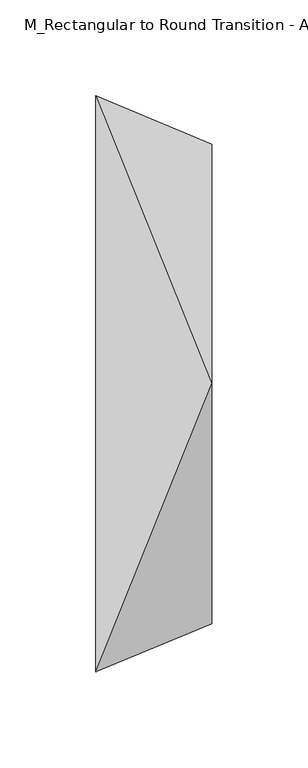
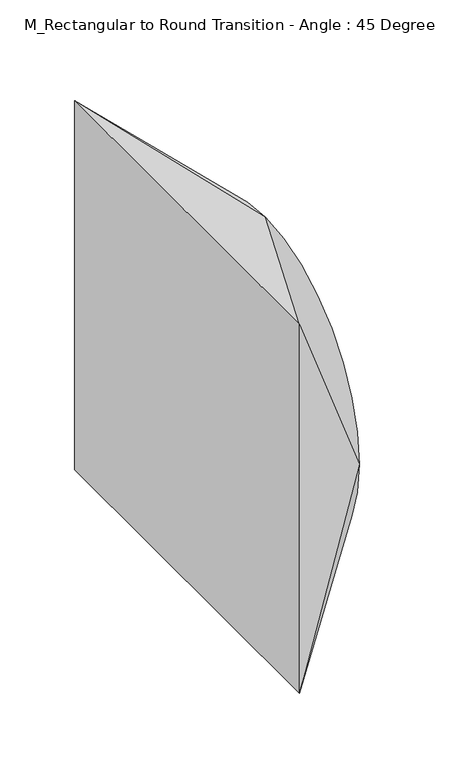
"""IFC4 building model written with IfcOpenShell, lengths in millimetres: duct fitting geometry, M_Rectangular to Round Transition - Angle : 45 Degree."""

from ifc_helpers import new_model, si_unit, frame, origin, place, context, project, spatial, circle_curve, source, transform, mapped, element, save
from ifc_brep_helpers import plane_surface, spline_surface, advanced_brep


def m_rectangular_to_round_transition_angle_45_degree_5bab159d(model_context):
    return source(origin(), model_context, "Body", "AdvancedBrep", [
        advanced_brep(
        [(0.0, -150.0, -150.0), (0.0, -150.0, 150.0), (0.0, 150.0, 150.0), (0.0, 150.0, -150.0), (60.3553391, -125.0, 0.0), (60.3553391, 0.0, -125.0), (60.3553391, 125.0, 0.0), (60.3553391, 0.0, 125.0)],
        [
            (0, 1),
            (1, 2),
            (2, 3),
            (3, 0),
            (4, 5, circle_curve(frame((60.3553391, 0.0, 0.0), z_axis=(1.0, 0.0, 0.0), x_axis=(0.0, -1.0, 0.0)), 125.0)),
            (5, 6, circle_curve(frame((60.3553391, 0.0, 0.0), z_axis=(1.0, 0.0, 0.0), x_axis=(0.0, -1.0, 0.0)), 125.0)),
            (6, 7, circle_curve(frame((60.3553391, 0.0, 0.0), z_axis=(1.0, 0.0, 0.0), x_axis=(0.0, -1.0, 0.0)), 125.0)),
            (7, 4, circle_curve(frame((60.3553391, 0.0, 0.0), z_axis=(1.0, 0.0, 0.0), x_axis=(0.0, -1.0, 0.0)), 125.0)),
            (0, 4),
            (4, 1),
            (7, 1),
            (7, 2),
            (6, 2),
            (6, 3),
            (5, 3),
            (5, 0),
        ],
        [
            plane_surface(frame((0.0, 0.0, 0.0), z_axis=(-1.0, 0.0, 0.0), x_axis=(0.0, 1.0, 0.0))),
            plane_surface(frame((60.3553391, 0.0, 0.0), z_axis=(1.0, 0.0, 0.0), x_axis=(0.0, 1.0, 0.0))),
            plane_surface(frame((60.3553391, -125.0, 0.0), z_axis=(0.3826834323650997, -0.9238795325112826, 0.0), x_axis=(0.0, 0.0, 1.0))),
            spline_surface(2, 1, [[(60.3553391, -125.0, 0.0), (0.0, -150.0, 150.0)], [(60.3553391, -125.0, 125.0), (0.0, -150.0, 150.0)], [(60.3553391, 0.0, 125.0), (0.0, -150.0, 150.0)]], [3, 3], [2, 2], [0.0, 1.0], [0.0, 1.0], weights=[[1.0, 1.0], [0.7071067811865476, 0.7071067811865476], [1.0, 1.0]]),
            plane_surface(frame((60.3553391, 0.0, 125.0), z_axis=(0.3826834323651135, 0.0, 0.923879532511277), x_axis=(0.0, 1.0, 0.0))),
            spline_surface(2, 1, [[(60.3553391, 0.0, 125.0), (0.0, 150.0, 150.0)], [(60.3553391, 125.0, 125.0), (0.0, 150.0, 150.0)], [(60.3553391, 125.0, 0.0), (0.0, 150.0, 150.0)]], [3, 3], [2, 2], [0.0, 1.0], [0.0, 1.0], weights=[[1.0, 1.0], [0.7071067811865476, 0.7071067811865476], [1.0, 1.0]]),
            plane_surface(frame((60.3553391, 125.0, 0.0), z_axis=(0.3826834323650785, 0.9238795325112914, 0.0), x_axis=(0.0, 0.0, -1.0))),
            spline_surface(2, 1, [[(60.3553391, 125.0, 0.0), (0.0, 150.0, -150.0)], [(60.3553391, 125.0, -125.0), (0.0, 150.0, -150.0)], [(60.3553391, 0.0, -125.0), (0.0, 150.0, -150.0)]], [3, 3], [2, 2], [0.0, 1.0], [0.0, 1.0], weights=[[1.0, 1.0], [0.7071067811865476, 0.7071067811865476], [1.0, 1.0]]),
            plane_surface(frame((60.3553391, 0.0, -125.0), z_axis=(0.3826834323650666, 0.0, -0.9238795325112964), x_axis=(0.0, -1.0, 0.0))),
            spline_surface(2, 1, [[(60.3553391, 0.0, -125.0), (0.0, -150.0, -150.0)], [(60.3553391, -125.0, -125.0), (0.0, -150.0, -150.0)], [(60.3553391, -125.0, 0.0), (0.0, -150.0, -150.0)]], [3, 3], [2, 2], [0.0, 1.0], [0.0, 1.0], weights=[[1.0, 1.0], [0.7071067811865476, 0.7071067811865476], [1.0, 1.0]]),
        ],
        [
            (0, [[1, 2, 3, 4]]),
            (1, [[5, 6, 7, 8]]),
            (2, [[-1, 9, 10]]),
            (3, [[-8, 11, -10]]),
            (4, [[-2, -11, 12]]),
            (5, [[-7, 13, -12]]),
            (6, [[-3, -13, 14]]),
            (7, [[-6, 15, -14]]),
            (8, [[-4, -15, 16]]),
            (9, [[-5, -9, -16]]),
        ],
    ),
        advanced_brep(
        [(0.0, -150.0, -150.0), (0.0, -150.0, 150.0), (0.0, 150.0, 150.0), (0.0, 150.0, -150.0), (60.3553391, -125.0, 0.0), (60.3553391, 0.0, -125.0), (60.3553391, 125.0, 0.0), (60.3553391, 0.0, 125.0)],
        [
            (0, 1),
            (1, 2),
            (2, 3),
            (3, 0),
            (4, 5, circle_curve(frame((60.3553391, 0.0, 0.0), z_axis=(1.0, 0.0, 0.0), x_axis=(0.0, -1.0, 0.0)), 125.0)),
            (5, 6, circle_curve(frame((60.3553391, 0.0, 0.0), z_axis=(1.0, 0.0, 0.0), x_axis=(0.0, -1.0, 0.0)), 125.0)),
            (6, 7, circle_curve(frame((60.3553391, 0.0, 0.0), z_axis=(1.0, 0.0, 0.0), x_axis=(0.0, -1.0, 0.0)), 125.0)),
            (7, 4, circle_curve(frame((60.3553391, 0.0, 0.0), z_axis=(1.0, 0.0, 0.0), x_axis=(0.0, -1.0, 0.0)), 125.0)),
            (0, 4),
            (4, 1),
            (7, 1),
            (7, 2),
            (6, 2),
            (6, 3),
            (5, 3),
            (5, 0),
        ],
        [
            plane_surface(frame((0.0, 0.0, 0.0), z_axis=(-1.0, 0.0, 0.0), x_axis=(0.0, 1.0, 0.0))),
            plane_surface(frame((60.3553391, 0.0, 0.0), z_axis=(1.0, 0.0, 0.0), x_axis=(0.0, 1.0, 0.0))),
            plane_surface(frame((60.3553391, -125.0, 0.0), z_axis=(0.3826834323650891, -0.9238795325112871, 0.0), x_axis=(0.0, 0.0, 1.0))),
            spline_surface(2, 1, [[(60.3553391, -125.0, 0.0), (0.0, -150.0, 150.0)], [(60.3553391, -125.0, 125.0), (0.0, -150.0, 150.0)], [(60.3553391, 0.0, 125.0), (0.0, -150.0, 150.0)]], [3, 3], [2, 2], [0.0, 1.0], [0.0, 1.0], weights=[[1.0, 1.0], [0.7071067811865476, 0.7071067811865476], [1.0, 1.0]]),
            plane_surface(frame((60.3553391, 0.0, 125.0), z_axis=(0.3826834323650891, 0.0, 0.9238795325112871), x_axis=(0.0, 1.0, 0.0))),
            spline_surface(2, 1, [[(60.3553391, 0.0, 125.0), (0.0, 150.0, 150.0)], [(60.3553391, 125.0, 125.0), (0.0, 150.0, 150.0)], [(60.3553391, 125.0, 0.0), (0.0, 150.0, 150.0)]], [3, 3], [2, 2], [0.0, 1.0], [0.0, 1.0], weights=[[1.0, 1.0], [0.7071067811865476, 0.7071067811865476], [1.0, 1.0]]),
            plane_surface(frame((60.3553391, 125.0, 0.0), z_axis=(0.3826834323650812, 0.9238795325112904, 0.0), x_axis=(0.0, 0.0, -1.0))),
            spline_surface(2, 1, [[(60.3553391, 125.0, 0.0), (0.0, 150.0, -150.0)], [(60.3553391, 125.0, -125.0), (0.0, 150.0, -150.0)], [(60.3553391, 0.0, -125.0), (0.0, 150.0, -150.0)]], [3, 3], [2, 2], [0.0, 1.0], [0.0, 1.0], weights=[[1.0, 1.0], [0.7071067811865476, 0.7071067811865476], [1.0, 1.0]]),
            plane_surface(frame((60.3553391, 0.0, -125.0), z_axis=(0.3826834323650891, 0.0, -0.9238795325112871), x_axis=(0.0, -1.0, 0.0))),
            spline_surface(2, 1, [[(60.3553391, 0.0, -125.0), (0.0, -150.0, -150.0)], [(60.3553391, -125.0, -125.0), (0.0, -150.0, -150.0)], [(60.3553391, -125.0, 0.0), (0.0, -150.0, -150.0)]], [3, 3], [2, 2], [0.0, 1.0], [0.0, 1.0], weights=[[1.0, 1.0], [0.7071067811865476, 0.7071067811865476], [1.0, 1.0]]),
        ],
        [
            (0, [[1, 2, 3, 4]]),
            (1, [[5, 6, 7, 8]]),
            (2, [[-1, 9, 10]]),
            (3, [[-8, 11, -10]]),
            (4, [[-2, -11, 12]]),
            (5, [[-7, 13, -12]]),
            (6, [[-3, -13, 14]]),
            (7, [[-6, 15, -14]]),
            (8, [[-4, -15, 16]]),
            (9, [[-5, -9, -16]]),
        ],
    ),
        advanced_brep(
        [(60.3553391, 0.0, 125.0), (60.3553391, -125.0, 0.0), (60.3553391, 0.0, -125.0), (60.3553391, 125.0, 0.0), (0.0, -150.0, 150.0), (0.0, 150.0, 150.0), (0.0, 150.0, -150.0), (0.0, -150.0, -150.0)],
        [
            (0, 1, circle_curve(frame((60.3553391, 0.0, 0.0), z_axis=(1.0, 0.0, 0.0), x_axis=(0.0, 1.0, 0.0)), 125.0)),
            (1, 2, circle_curve(frame((60.3553391, 0.0, 0.0), z_axis=(1.0, 0.0, 0.0), x_axis=(0.0, 1.0, 0.0)), 125.0)),
            (2, 3, circle_curve(frame((60.3553391, 0.0, 0.0), z_axis=(1.0, 0.0, 0.0), x_axis=(0.0, 1.0, 0.0)), 125.0)),
            (3, 0, circle_curve(frame((60.3553391, 0.0, 0.0), z_axis=(1.0, 0.0, 0.0), x_axis=(0.0, 1.0, 0.0)), 125.0)),
            (4, 5),
            (5, 6),
            (6, 7),
            (7, 4),
            (0, 4),
            (4, 1),
            (7, 1),
            (7, 2),
            (6, 2),
            (6, 3),
            (5, 3),
            (5, 0),
        ],
        [
            plane_surface(frame((60.3553391, 0.0, 0.0), z_axis=(1.0, 0.0, 0.0), x_axis=(0.0, 0.0, -1.0))),
            plane_surface(frame((0.0, 0.0, 0.0), z_axis=(-1.0, 0.0, 0.0), x_axis=(0.0, 0.0, -1.0))),
            spline_surface(2, 1, [[(0.0, -150.0, 150.0), (60.3553391, 0.0, 125.0)], [(0.0, -150.0, 150.0), (60.3553391, -125.0, 125.0)], [(0.0, -150.0, 150.0), (60.3553391, -125.0, 0.0)]], [3, 3], [2, 2], [0.0, 1.0], [0.0, 1.0], weights=[[1.0, 1.0], [0.7071067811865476, 0.7071067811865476], [1.0, 1.0]]),
            plane_surface(frame((0.0, -150.0, 0.0), z_axis=(0.3826834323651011, -0.9238795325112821, 0.0), x_axis=(0.0, 0.0, -1.0))),
            spline_surface(2, 1, [[(0.0, -150.0, -150.0), (60.3553391, -125.0, 0.0)], [(0.0, -150.0, -150.0), (60.3553391, -125.0, -125.0)], [(0.0, -150.0, -150.0), (60.3553391, 0.0, -125.0)]], [3, 3], [2, 2], [0.0, 1.0], [0.0, 1.0], weights=[[1.0, 1.0], [0.7071067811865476, 0.7071067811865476], [1.0, 1.0]]),
            plane_surface(frame((0.0, 0.0, -150.0), z_axis=(0.38268343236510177, 0.0, -0.9238795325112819), x_axis=(0.0, 1.0, 0.0))),
            spline_surface(2, 1, [[(0.0, 150.0, -150.0), (60.3553391, 0.0, -125.0)], [(0.0, 150.0, -150.0), (60.3553391, 125.0, -125.0)], [(0.0, 150.0, -150.0), (60.3553391, 125.0, 0.0)]], [3, 3], [2, 2], [0.0, 1.0], [0.0, 1.0], weights=[[1.0, 1.0], [0.7071067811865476, 0.7071067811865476], [1.0, 1.0]]),
            plane_surface(frame((0.0, 150.0, 0.0), z_axis=(0.3826834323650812, 0.9238795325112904, 0.0), x_axis=(0.0, 0.0, 1.0))),
            spline_surface(2, 1, [[(0.0, 150.0, 150.0), (60.3553391, 125.0, 0.0)], [(0.0, 150.0, 150.0), (60.3553391, 125.0, 125.0)], [(0.0, 150.0, 150.0), (60.3553391, 0.0, 125.0)]], [3, 3], [2, 2], [0.0, 1.0], [0.0, 1.0], weights=[[1.0, 1.0], [0.7071067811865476, 0.7071067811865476], [1.0, 1.0]]),
            plane_surface(frame((0.0, 0.0, 150.0), z_axis=(0.3826834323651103, 0.0, 0.9238795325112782), x_axis=(0.0, -1.0, 0.0))),
        ],
        [
            (0, [[1, 2, 3, 4]]),
            (1, [[5, 6, 7, 8]]),
            (2, [[-1, 9, 10]]),
            (3, [[-8, 11, -10]]),
            (4, [[-2, -11, 12]]),
            (5, [[-7, 13, -12]]),
            (6, [[-3, -13, 14]]),
            (7, [[-6, 15, -14]]),
            (8, [[-4, -15, 16]]),
            (9, [[-5, -9, -16]]),
        ],
    ),
    ])


if __name__ == "__main__":
    model = new_model("IFC4")
    model_context = context("Model", 3, world=origin())
    ifc_project = project(units=[si_unit("LENGTHUNIT", "METRE", prefix="MILLI")], contexts=[model_context])
    site = spatial("IfcSite", under=ifc_project)
    building = spatial("IfcBuilding", under=site)
    placement = place(None, origin())
    m_rectangular_to_round_transition_angle_45_degree_shape = m_rectangular_to_round_transition_angle_45_degree_5bab159d(model_context)
    element("IfcDuctFitting", 1, ObjectType="M_Rectangular to Round Transition - Angle : 45 Degree", at=placement, inside=building, context=model_context, shape_type="MappedRepresentation", body=[
        mapped(m_rectangular_to_round_transition_angle_45_degree_shape, transform((0.0, 0.0, 0.0), x_axis=(1.0, 0.0, 0.0), y_axis=(0.0, 1.0, 0.0), z_axis=(0.0, 0.0, 1.0))),
    ])
    save(model, "model.ifc")
